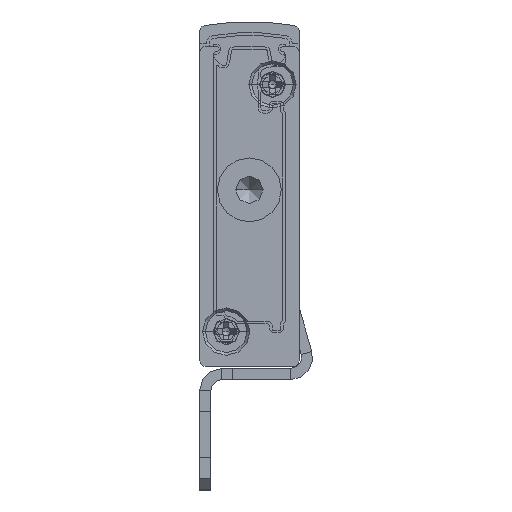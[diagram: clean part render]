
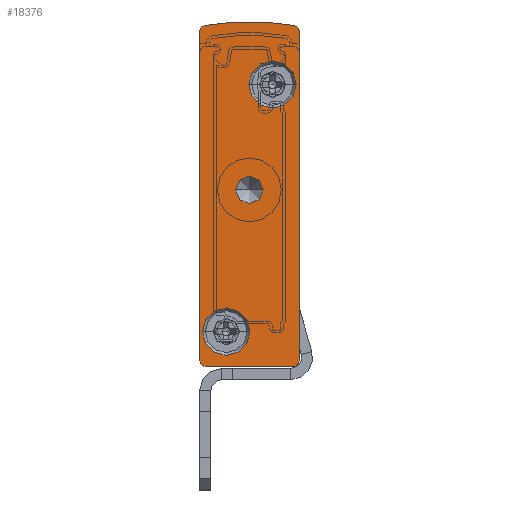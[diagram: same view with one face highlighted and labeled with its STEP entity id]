
A CAD part, front view. The second image highlights one B-rep face of the part: STEP entity #18376.
In plain terms, the highlighted planar face has unit normal (0, -1, 0).
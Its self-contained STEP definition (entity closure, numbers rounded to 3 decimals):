
#151 = DIRECTION ( 'NONE',  ( 0., -1., 0. ) ) ;
#1533 = DIRECTION ( 'NONE',  ( 1., 0., 0. ) ) ;
#1581 = CARTESIAN_POINT ( 'NONE',  ( -8.5, -2.5, 0. ) ) ;
#1634 = CIRCLE ( 'NONE', #21753, 0.5 ) ;
#1770 = VERTEX_POINT ( 'NONE', #14296 ) ;
#2506 = DIRECTION ( 'NONE',  ( 0., 1., 0. ) ) ;
#2715 = CARTESIAN_POINT ( 'NONE',  ( -8.5, -2.5, 30.402 ) ) ;
#3023 = VERTEX_POINT ( 'NONE', #33857 ) ;
#3310 = AXIS2_PLACEMENT_3D ( 'NONE', #9670, #151, #30990 ) ;
#3736 = DIRECTION ( 'NONE',  ( 0., 0., -1. ) ) ;
#3853 = CARTESIAN_POINT ( 'NONE',  ( -0.25, -2.5, 25.55 ) ) ;
#4930 = DIRECTION ( 'NONE',  ( -1., 0., 0. ) ) ;
#5211 = EDGE_LOOP ( 'NONE', ( #29733, #7460 ) ) ;
#5352 = CIRCLE ( 'NONE', #31519, 2.15 ) ;
#5384 = CIRCLE ( 'NONE', #6714, 2.15 ) ;
#5390 = ORIENTED_EDGE ( 'NONE', *, *, #11940, .F. ) ;
#5417 = PLANE ( 'NONE',  #10512 ) ;
#5626 = DIRECTION ( 'NONE',  ( -1., 0., 0. ) ) ;
#5853 = ORIENTED_EDGE ( 'NONE', *, *, #37577, .F. ) ;
#5980 = CARTESIAN_POINT ( 'NONE',  ( -8.5, -2.5, 30.402 ) ) ;
#6714 = AXIS2_PLACEMENT_3D ( 'NONE', #24418, #34179, #22033 ) ;
#6868 = VERTEX_POINT ( 'NONE', #27991 ) ;
#7460 = ORIENTED_EDGE ( 'NONE', *, *, #36908, .T. ) ;
#7474 = EDGE_CURVE ( 'NONE', #13978, #28381, #37472, .T. ) ;
#7609 = LINE ( 'NONE', #1581, #19490 ) ;
#7980 = CARTESIAN_POINT ( 'NONE',  ( -4.5, -2.5, 16. ) ) ;
#8013 = AXIS2_PLACEMENT_3D ( 'NONE', #9422, #33513, #33783 ) ;
#9422 = CARTESIAN_POINT ( 'NONE',  ( -0.5, -2.5, 30.402 ) ) ;
#9465 = LINE ( 'NONE', #31095, #36082 ) ;
#9670 = CARTESIAN_POINT ( 'NONE',  ( -6.6, -2.5, 3.15 ) ) ;
#10093 = VERTEX_POINT ( 'NONE', #17179 ) ;
#10512 = AXIS2_PLACEMENT_3D ( 'NONE', #2715, #33269, #27147 ) ;
#11268 = ORIENTED_EDGE ( 'NONE', *, *, #33066, .F. ) ;
#11445 = DIRECTION ( 'NONE',  ( -1., 0., 0. ) ) ;
#11626 = LINE ( 'NONE', #33245, #30680 ) ;
#11663 = AXIS2_PLACEMENT_3D ( 'NONE', #39432, #18298, #36124 ) ;
#11940 = EDGE_CURVE ( 'NONE', #15483, #3023, #1634, .T. ) ;
#12242 = EDGE_CURVE ( 'NONE', #28622, #33655, #16384, .T. ) ;
#12919 = ORIENTED_EDGE ( 'NONE', *, *, #14612, .F. ) ;
#13338 = DIRECTION ( 'NONE',  ( -1., 0., 0. ) ) ;
#13467 = CARTESIAN_POINT ( 'NONE',  ( -8.5, -2.5, 0.5 ) ) ;
#13978 = VERTEX_POINT ( 'NONE', #28023 ) ;
#14141 = EDGE_CURVE ( 'NONE', #16462, #1770, #28394, .T. ) ;
#14296 = CARTESIAN_POINT ( 'NONE',  ( -0.408, -2.5, 30.893 ) ) ;
#14612 = EDGE_CURVE ( 'NONE', #28381, #22106, #11626, .T. ) ;
#14658 = ORIENTED_EDGE ( 'NONE', *, *, #7474, .F. ) ;
#14929 = DIRECTION ( 'NONE',  ( 0., 1., 0. ) ) ;
#15483 = VERTEX_POINT ( 'NONE', #29330 ) ;
#16368 = CIRCLE ( 'NONE', #8013, 0.5 ) ;
#16384 = CIRCLE ( 'NONE', #11663, 2.15 ) ;
#16462 = VERTEX_POINT ( 'NONE', #26541 ) ;
#16891 = VERTEX_POINT ( 'NONE', #25598 ) ;
#16904 = EDGE_CURVE ( 'NONE', #3023, #13978, #7609, .T. ) ;
#17179 = CARTESIAN_POINT ( 'NONE',  ( -3.25, -2.5, 16. ) ) ;
#17217 = CIRCLE ( 'NONE', #34001, 0.5 ) ;
#17521 = CIRCLE ( 'NONE', #3310, 2.15 ) ;
#17710 = CARTESIAN_POINT ( 'NONE',  ( -9., -2.5, 0.5 ) ) ;
#17971 = AXIS2_PLACEMENT_3D ( 'NONE', #7980, #20444, #23132 ) ;
#18138 = VERTEX_POINT ( 'NONE', #28587 ) ;
#18298 = DIRECTION ( 'NONE',  ( 0., -1., 0. ) ) ;
#18376 = ADVANCED_FACE ( 'NONE', ( #30338, #35983, #22678, #36472 ), #5417, .F. ) ;
#18825 = CIRCLE ( 'NONE', #39276, 1.25 ) ;
#19165 = CARTESIAN_POINT ( 'NONE',  ( -9., -2.5, 30.402 ) ) ;
#19490 = VECTOR ( 'NONE', #4930, 1000. ) ;
#20444 = DIRECTION ( 'NONE',  ( 0., 1., 0. ) ) ;
#21053 = ORIENTED_EDGE ( 'NONE', *, *, #29622, .F. ) ;
#21436 = DIRECTION ( 'NONE',  ( -1., 0., 0. ) ) ;
#21471 = CIRCLE ( 'NONE', #17971, 1.25 ) ;
#21587 = ORIENTED_EDGE ( 'NONE', *, *, #12242, .F. ) ;
#21753 = AXIS2_PLACEMENT_3D ( 'NONE', #33591, #30406, #21436 ) ;
#22033 = DIRECTION ( 'NONE',  ( 1., 0., 0. ) ) ;
#22106 = VERTEX_POINT ( 'NONE', #19165 ) ;
#22238 = ORIENTED_EDGE ( 'NONE', *, *, #16904, .F. ) ;
#22678 = FACE_OUTER_BOUND ( 'NONE', #25252, .T. ) ;
#22823 = VERTEX_POINT ( 'NONE', #31527 ) ;
#23098 = EDGE_LOOP ( 'NONE', ( #21587, #28480 ) ) ;
#23132 = DIRECTION ( 'NONE',  ( -1., 0., 0. ) ) ;
#23718 = CARTESIAN_POINT ( 'NONE',  ( -4.5, -2.5, 16. ) ) ;
#23777 = EDGE_CURVE ( 'NONE', #22106, #16462, #17217, .T. ) ;
#24418 = CARTESIAN_POINT ( 'NONE',  ( -2.4, -2.5, 25.55 ) ) ;
#24579 = EDGE_CURVE ( 'NONE', #16891, #15483, #9465, .T. ) ;
#25252 = EDGE_LOOP ( 'NONE', ( #27720, #12919, #14658, #22238, #5390, #39096, #5853, #31004 ) ) ;
#25598 = CARTESIAN_POINT ( 'NONE',  ( 0., -2.5, 30.402 ) ) ;
#26541 = CARTESIAN_POINT ( 'NONE',  ( -8.592, -2.5, 30.893 ) ) ;
#26752 = CARTESIAN_POINT ( 'NONE',  ( -4.5, -2.5, 7.592 ) ) ;
#27113 = EDGE_LOOP ( 'NONE', ( #21053, #11268 ) ) ;
#27147 = DIRECTION ( 'NONE',  ( -1., 0., 0. ) ) ;
#27275 = DIRECTION ( 'NONE',  ( 0., 1., 0. ) ) ;
#27457 = AXIS2_PLACEMENT_3D ( 'NONE', #13467, #34742, #13338 ) ;
#27720 = ORIENTED_EDGE ( 'NONE', *, *, #23777, .F. ) ;
#27991 = CARTESIAN_POINT ( 'NONE',  ( -5.75, -2.5, 16. ) ) ;
#28023 = CARTESIAN_POINT ( 'NONE',  ( -8.5, -2.5, 0. ) ) ;
#28381 = VERTEX_POINT ( 'NONE', #17710 ) ;
#28394 = CIRCLE ( 'NONE', #29241, 23.658 ) ;
#28480 = ORIENTED_EDGE ( 'NONE', *, *, #37585, .F. ) ;
#28587 = CARTESIAN_POINT ( 'NONE',  ( -8.75, -2.5, 3.15 ) ) ;
#28622 = VERTEX_POINT ( 'NONE', #3853 ) ;
#29241 = AXIS2_PLACEMENT_3D ( 'NONE', #26752, #14929, #11445 ) ;
#29330 = CARTESIAN_POINT ( 'NONE',  ( 0., -2.5, 0.5 ) ) ;
#29412 = DIRECTION ( 'NONE',  ( 0., -1., 0. ) ) ;
#29622 = EDGE_CURVE ( 'NONE', #22823, #18138, #17521, .T. ) ;
#29733 = ORIENTED_EDGE ( 'NONE', *, *, #38170, .T. ) ;
#30338 = FACE_BOUND ( 'NONE', #23098, .T. ) ;
#30406 = DIRECTION ( 'NONE',  ( 0., 1., 0. ) ) ;
#30680 = VECTOR ( 'NONE', #36627, 1000. ) ;
#30990 = DIRECTION ( 'NONE',  ( 1., 0., 0. ) ) ;
#31004 = ORIENTED_EDGE ( 'NONE', *, *, #14141, .F. ) ;
#31095 = CARTESIAN_POINT ( 'NONE',  ( 0., -2.5, 30.402 ) ) ;
#31519 = AXIS2_PLACEMENT_3D ( 'NONE', #32079, #29412, #1533 ) ;
#31527 = CARTESIAN_POINT ( 'NONE',  ( -4.45, -2.5, 3.15 ) ) ;
#32079 = CARTESIAN_POINT ( 'NONE',  ( -6.6, -2.5, 3.15 ) ) ;
#33066 = EDGE_CURVE ( 'NONE', #18138, #22823, #5352, .T. ) ;
#33245 = CARTESIAN_POINT ( 'NONE',  ( -9., -2.5, 30.402 ) ) ;
#33269 = DIRECTION ( 'NONE',  ( 0., 1., 0. ) ) ;
#33513 = DIRECTION ( 'NONE',  ( 0., 1., 0. ) ) ;
#33591 = CARTESIAN_POINT ( 'NONE',  ( -0.5, -2.5, 0.5 ) ) ;
#33655 = VERTEX_POINT ( 'NONE', #38096 ) ;
#33783 = DIRECTION ( 'NONE',  ( -1., 0., 0. ) ) ;
#33857 = CARTESIAN_POINT ( 'NONE',  ( -0.5, -2.5, 0. ) ) ;
#34001 = AXIS2_PLACEMENT_3D ( 'NONE', #5980, #27275, #36406 ) ;
#34179 = DIRECTION ( 'NONE',  ( 0., -1., 0. ) ) ;
#34742 = DIRECTION ( 'NONE',  ( 0., 1., 0. ) ) ;
#35983 = FACE_BOUND ( 'NONE', #27113, .T. ) ;
#36082 = VECTOR ( 'NONE', #3736, 1000. ) ;
#36124 = DIRECTION ( 'NONE',  ( 1., 0., 0. ) ) ;
#36406 = DIRECTION ( 'NONE',  ( -1., 0., 0. ) ) ;
#36472 = FACE_BOUND ( 'NONE', #5211, .T. ) ;
#36627 = DIRECTION ( 'NONE',  ( 0., 0., 1. ) ) ;
#36908 = EDGE_CURVE ( 'NONE', #10093, #6868, #18825, .T. ) ;
#37472 = CIRCLE ( 'NONE', #27457, 0.5 ) ;
#37577 = EDGE_CURVE ( 'NONE', #1770, #16891, #16368, .T. ) ;
#37585 = EDGE_CURVE ( 'NONE', #33655, #28622, #5384, .T. ) ;
#38096 = CARTESIAN_POINT ( 'NONE',  ( -4.55, -2.5, 25.55 ) ) ;
#38170 = EDGE_CURVE ( 'NONE', #6868, #10093, #21471, .T. ) ;
#39096 = ORIENTED_EDGE ( 'NONE', *, *, #24579, .F. ) ;
#39276 = AXIS2_PLACEMENT_3D ( 'NONE', #23718, #2506, #5626 ) ;
#39432 = CARTESIAN_POINT ( 'NONE',  ( -2.4, -2.5, 25.55 ) ) ;
